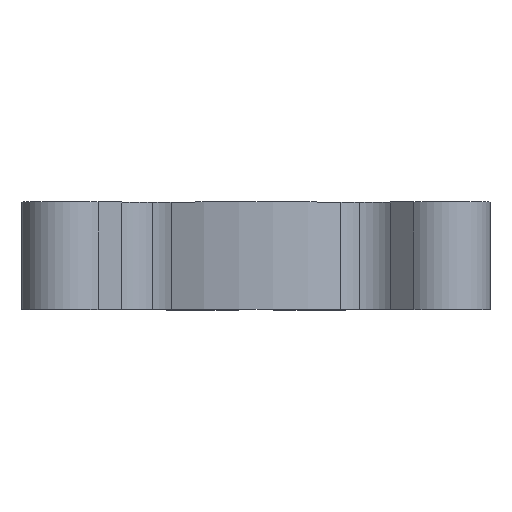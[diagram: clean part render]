
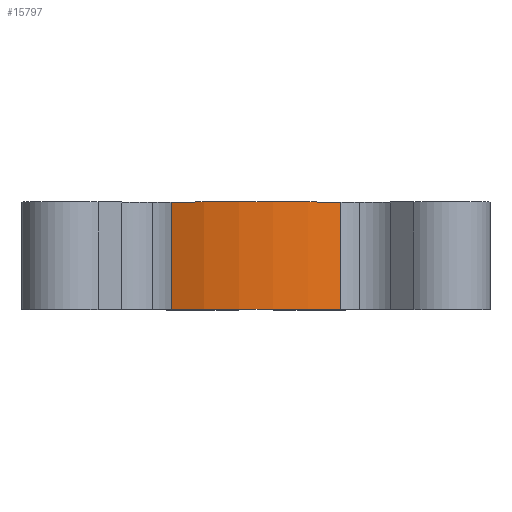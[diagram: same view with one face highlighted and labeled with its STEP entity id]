
A CAD part, top view. The second image highlights one B-rep face of the part: STEP entity #15797.
In plain terms, the highlighted cylindrical face has radius 14.72 mm (diameter 29.441 mm), a partial arc.
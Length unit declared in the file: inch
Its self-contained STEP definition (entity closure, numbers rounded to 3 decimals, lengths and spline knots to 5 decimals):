
#622 = EDGE_CURVE ( 'NONE', #7869, #10312, #11722, .T. ) ;
#1654 = CARTESIAN_POINT ( 'NONE',  ( -0.23772, 0., 0.52854 ) ) ;
#1829 = ORIENTED_EDGE ( 'NONE', *, *, #6414, .T. ) ;
#1865 = CARTESIAN_POINT ( 'NONE',  ( 0., 0.3, 0. ) ) ;
#2561 = CYLINDRICAL_SURFACE ( 'NONE', #17515, 0.57954 ) ;
#2810 = CARTESIAN_POINT ( 'NONE',  ( 0.23772, 0., 0.52854 ) ) ;
#3685 = ORIENTED_EDGE ( 'NONE', *, *, #11985, .T. ) ;
#3861 = EDGE_CURVE ( 'NONE', #5065, #19825, #11912, .T. ) ;
#3899 = CARTESIAN_POINT ( 'NONE',  ( 0.23772, 0.3, 0.52854 ) ) ;
#5065 = VERTEX_POINT ( 'NONE', #1654 ) ;
#5152 = DIRECTION ( 'NONE',  ( 0., 0., 1. ) ) ;
#5576 = EDGE_LOOP ( 'NONE', ( #19224, #1829, #17635, #3685 ) ) ;
#6304 = LINE ( 'NONE', #10173, #9929 ) ;
#6414 = EDGE_CURVE ( 'NONE', #19825, #10312, #6304, .T. ) ;
#6483 = LINE ( 'NONE', #19314, #7944 ) ;
#7869 = VERTEX_POINT ( 'NONE', #14863 ) ;
#7906 = DIRECTION ( 'NONE',  ( 0., 1., 0. ) ) ;
#7944 = VECTOR ( 'NONE', #19378, 39.37008 ) ;
#8358 = DIRECTION ( 'NONE',  ( 0., -1., 0. ) ) ;
#8600 = DIRECTION ( 'NONE',  ( 0., 1., 0. ) ) ;
#9794 = FACE_OUTER_BOUND ( 'NONE', #5576, .T. ) ;
#9929 = VECTOR ( 'NONE', #8600, 39.37008 ) ;
#10173 = CARTESIAN_POINT ( 'NONE',  ( 0.23772, 0.3, 0.52854 ) ) ;
#10312 = VERTEX_POINT ( 'NONE', #3899 ) ;
#11722 = CIRCLE ( 'NONE', #14034, 0.57954 ) ;
#11912 = CIRCLE ( 'NONE', #12564, 0.57954 ) ;
#11985 = EDGE_CURVE ( 'NONE', #7869, #5065, #6483, .T. ) ;
#12564 = AXIS2_PLACEMENT_3D ( 'NONE', #18749, #7906, #5152 ) ;
#13022 = DIRECTION ( 'NONE',  ( 0., 0., -1. ) ) ;
#14034 = AXIS2_PLACEMENT_3D ( 'NONE', #1865, #17229, #14131 ) ;
#14131 = DIRECTION ( 'NONE',  ( 0., 0., 1. ) ) ;
#14863 = CARTESIAN_POINT ( 'NONE',  ( -0.23772, 0.3, 0.52854 ) ) ;
#15797 = ADVANCED_FACE ( 'NONE', ( #9794 ), #2561, .T. ) ;
#17229 = DIRECTION ( 'NONE',  ( 0., 1., 0. ) ) ;
#17515 = AXIS2_PLACEMENT_3D ( 'NONE', #19542, #8358, #13022 ) ;
#17635 = ORIENTED_EDGE ( 'NONE', *, *, #622, .F. ) ;
#18749 = CARTESIAN_POINT ( 'NONE',  ( 0., 0., 0. ) ) ;
#19224 = ORIENTED_EDGE ( 'NONE', *, *, #3861, .T. ) ;
#19314 = CARTESIAN_POINT ( 'NONE',  ( -0.23772, 0.3, 0.52854 ) ) ;
#19378 = DIRECTION ( 'NONE',  ( 0., -1., 0. ) ) ;
#19542 = CARTESIAN_POINT ( 'NONE',  ( 0., 0.3, 0. ) ) ;
#19825 = VERTEX_POINT ( 'NONE', #2810 ) ;
